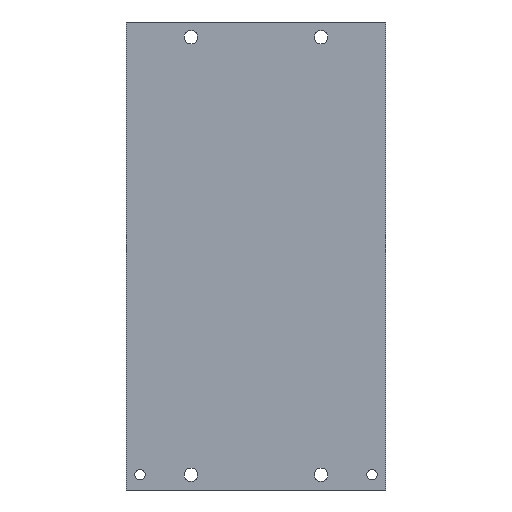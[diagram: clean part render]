
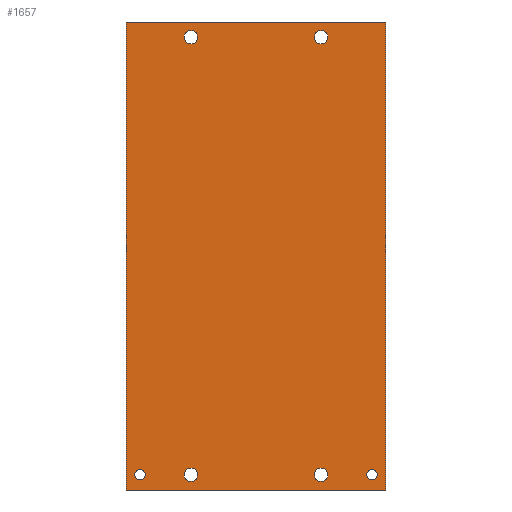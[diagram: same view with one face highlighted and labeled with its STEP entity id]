
A CAD part, front view. The second image highlights one B-rep face of the part: STEP entity #1657.
In plain terms, the highlighted planar face has unit normal (0, -1, 0).
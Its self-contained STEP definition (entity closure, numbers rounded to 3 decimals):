
#13=DIRECTION('',(0.,0.,1.));
#14=VECTOR('',#13,230.);
#15=CARTESIAN_POINT('',(63.65,0.,-115.));
#16=LINE('',#15,#14);
#17=DIRECTION('',(-1.,0.,0.));
#18=VECTOR('',#17,127.3);
#19=CARTESIAN_POINT('',(63.65,0.,115.));
#20=LINE('',#19,#18);
#21=DIRECTION('',(-1.,0.,0.));
#22=VECTOR('',#21,127.3);
#23=CARTESIAN_POINT('',(63.65,0.,-115.));
#24=LINE('',#23,#22);
#25=CARTESIAN_POINT('',(-32.,0.,-107.5));
#26=DIRECTION('',(0.,1.,0.));
#27=DIRECTION('',(1.,0.,0.));
#28=AXIS2_PLACEMENT_3D('',#25,#26,#27);
#30=CARTESIAN_POINT('',(-32.,0.,-107.5));
#31=DIRECTION('',(0.,1.,0.));
#32=DIRECTION('',(-1.,0.,0.));
#33=AXIS2_PLACEMENT_3D('',#30,#31,#32);
#35=CARTESIAN_POINT('',(32.,0.,-107.5));
#36=DIRECTION('',(0.,1.,0.));
#37=DIRECTION('',(1.,0.,0.));
#38=AXIS2_PLACEMENT_3D('',#35,#36,#37);
#40=CARTESIAN_POINT('',(32.,0.,-107.5));
#41=DIRECTION('',(0.,1.,0.));
#42=DIRECTION('',(-1.,0.,0.));
#43=AXIS2_PLACEMENT_3D('',#40,#41,#42);
#45=CARTESIAN_POINT('',(-32.,0.,107.5));
#46=DIRECTION('',(0.,1.,0.));
#47=DIRECTION('',(1.,0.,0.));
#48=AXIS2_PLACEMENT_3D('',#45,#46,#47);
#50=CARTESIAN_POINT('',(-32.,0.,107.5));
#51=DIRECTION('',(0.,1.,0.));
#52=DIRECTION('',(-1.,0.,0.));
#53=AXIS2_PLACEMENT_3D('',#50,#51,#52);
#55=CARTESIAN_POINT('',(32.,0.,107.5));
#56=DIRECTION('',(0.,1.,0.));
#57=DIRECTION('',(1.,0.,0.));
#58=AXIS2_PLACEMENT_3D('',#55,#56,#57);
#60=CARTESIAN_POINT('',(32.,0.,107.5));
#61=DIRECTION('',(0.,1.,0.));
#62=DIRECTION('',(-1.,0.,0.));
#63=AXIS2_PLACEMENT_3D('',#60,#61,#62);
#65=CARTESIAN_POINT('',(-57.,0.,-107.5));
#66=DIRECTION('',(0.,-1.,0.));
#67=DIRECTION('',(1.,0.,0.));
#68=AXIS2_PLACEMENT_3D('',#65,#66,#67);
#70=CARTESIAN_POINT('',(-57.,0.,-107.5));
#71=DIRECTION('',(0.,-1.,0.));
#72=DIRECTION('',(-1.,0.,0.));
#73=AXIS2_PLACEMENT_3D('',#70,#71,#72);
#75=CARTESIAN_POINT('',(57.,0.,-107.5));
#76=DIRECTION('',(0.,-1.,0.));
#77=DIRECTION('',(1.,0.,0.));
#78=AXIS2_PLACEMENT_3D('',#75,#76,#77);
#80=CARTESIAN_POINT('',(57.,0.,-107.5));
#81=DIRECTION('',(0.,-1.,0.));
#82=DIRECTION('',(-1.,0.,0.));
#83=AXIS2_PLACEMENT_3D('',#80,#81,#82);
#445=DIRECTION('',(0.,0.,1.));
#446=VECTOR('',#445,230.);
#447=CARTESIAN_POINT('',(-63.65,0.,-115.));
#448=LINE('',#447,#446);
#1193=CARTESIAN_POINT('',(63.65,0.,115.));
#1195=VERTEX_POINT('',#1193);
#1199=CARTESIAN_POINT('',(63.65,0.,-115.));
#1200=VERTEX_POINT('',#1199);
#1201=CARTESIAN_POINT('',(-63.65,0.,115.));
#1203=VERTEX_POINT('',#1201);
#1207=CARTESIAN_POINT('',(-63.65,0.,-115.));
#1208=VERTEX_POINT('',#1207);
#1229=CARTESIAN_POINT('',(-54.445,0.,-107.5));
#1230=CARTESIAN_POINT('',(-59.555,0.,-107.5));
#1231=VERTEX_POINT('',#1229);
#1232=VERTEX_POINT('',#1230);
#1237=CARTESIAN_POINT('',(59.555,0.,-107.5));
#1238=CARTESIAN_POINT('',(54.445,0.,-107.5));
#1239=VERTEX_POINT('',#1237);
#1240=VERTEX_POINT('',#1238);
#1253=CARTESIAN_POINT('',(-28.7,0.,-107.5));
#1254=CARTESIAN_POINT('',(-35.3,0.,-107.5));
#1255=VERTEX_POINT('',#1253);
#1256=VERTEX_POINT('',#1254);
#1269=CARTESIAN_POINT('',(35.3,0.,-107.5));
#1270=CARTESIAN_POINT('',(28.7,0.,-107.5));
#1271=VERTEX_POINT('',#1269);
#1272=VERTEX_POINT('',#1270);
#1285=CARTESIAN_POINT('',(-28.7,0.,107.5));
#1286=CARTESIAN_POINT('',(-35.3,0.,107.5));
#1287=VERTEX_POINT('',#1285);
#1288=VERTEX_POINT('',#1286);
#1301=CARTESIAN_POINT('',(35.3,0.,107.5));
#1302=CARTESIAN_POINT('',(28.7,0.,107.5));
#1303=VERTEX_POINT('',#1301);
#1304=VERTEX_POINT('',#1302);
#1608=CARTESIAN_POINT('',(63.65,0.,-115.));
#1609=DIRECTION('',(0.,-1.,0.));
#1610=DIRECTION('',(0.,0.,1.));
#1611=AXIS2_PLACEMENT_3D('',#1608,#1609,#1610);
#1612=PLANE('',#1611);
#1613=ORIENTED_EDGE('',*,*,#1588,.F.);
#1615=ORIENTED_EDGE('',*,*,#1614,.T.);
#1617=ORIENTED_EDGE('',*,*,#1616,.T.);
#1618=ORIENTED_EDGE('',*,*,#1599,.F.);
#1619=EDGE_LOOP('',(#1613,#1615,#1617,#1618));
#1620=FACE_OUTER_BOUND('',#1619,.F.);
#1622=ORIENTED_EDGE('',*,*,#1621,.F.);
#1624=ORIENTED_EDGE('',*,*,#1623,.F.);
#1625=EDGE_LOOP('',(#1622,#1624));
#1626=FACE_BOUND('',#1625,.F.);
#1628=ORIENTED_EDGE('',*,*,#1627,.F.);
#1630=ORIENTED_EDGE('',*,*,#1629,.F.);
#1631=EDGE_LOOP('',(#1628,#1630));
#1632=FACE_BOUND('',#1631,.F.);
#1634=ORIENTED_EDGE('',*,*,#1633,.F.);
#1636=ORIENTED_EDGE('',*,*,#1635,.F.);
#1637=EDGE_LOOP('',(#1634,#1636));
#1638=FACE_BOUND('',#1637,.F.);
#1640=ORIENTED_EDGE('',*,*,#1639,.F.);
#1642=ORIENTED_EDGE('',*,*,#1641,.F.);
#1643=EDGE_LOOP('',(#1640,#1642));
#1644=FACE_BOUND('',#1643,.F.);
#1646=ORIENTED_EDGE('',*,*,#1645,.T.);
#1648=ORIENTED_EDGE('',*,*,#1647,.T.);
#1649=EDGE_LOOP('',(#1646,#1648));
#1650=FACE_BOUND('',#1649,.F.);
#1652=ORIENTED_EDGE('',*,*,#1651,.T.);
#1654=ORIENTED_EDGE('',*,*,#1653,.T.);
#1655=EDGE_LOOP('',(#1652,#1654));
#1656=FACE_BOUND('',#1655,.F.);
#1657=ADVANCED_FACE('',(#1620,#1626,#1632,#1638,#1644,#1650,#1656),#1612,.T.);
#29=CIRCLE('',#28,3.3);
#34=CIRCLE('',#33,3.3);
#39=CIRCLE('',#38,3.3);
#44=CIRCLE('',#43,3.3);
#49=CIRCLE('',#48,3.3);
#54=CIRCLE('',#53,3.3);
#59=CIRCLE('',#58,3.3);
#64=CIRCLE('',#63,3.3);
#69=CIRCLE('',#68,2.555);
#74=CIRCLE('',#73,2.555);
#79=CIRCLE('',#78,2.555);
#84=CIRCLE('',#83,2.555);
#1588=EDGE_CURVE('',#1200,#1195,#16,.T.);
#1599=EDGE_CURVE('',#1195,#1203,#20,.T.);
#1614=EDGE_CURVE('',#1200,#1208,#24,.T.);
#1616=EDGE_CURVE('',#1208,#1203,#448,.T.);
#1621=EDGE_CURVE('',#1255,#1256,#29,.T.);
#1623=EDGE_CURVE('',#1256,#1255,#34,.T.);
#1627=EDGE_CURVE('',#1271,#1272,#39,.T.);
#1629=EDGE_CURVE('',#1272,#1271,#44,.T.);
#1633=EDGE_CURVE('',#1287,#1288,#49,.T.);
#1635=EDGE_CURVE('',#1288,#1287,#54,.T.);
#1639=EDGE_CURVE('',#1303,#1304,#59,.T.);
#1641=EDGE_CURVE('',#1304,#1303,#64,.T.);
#1645=EDGE_CURVE('',#1231,#1232,#69,.T.);
#1647=EDGE_CURVE('',#1232,#1231,#74,.T.);
#1651=EDGE_CURVE('',#1239,#1240,#79,.T.);
#1653=EDGE_CURVE('',#1240,#1239,#84,.T.);
